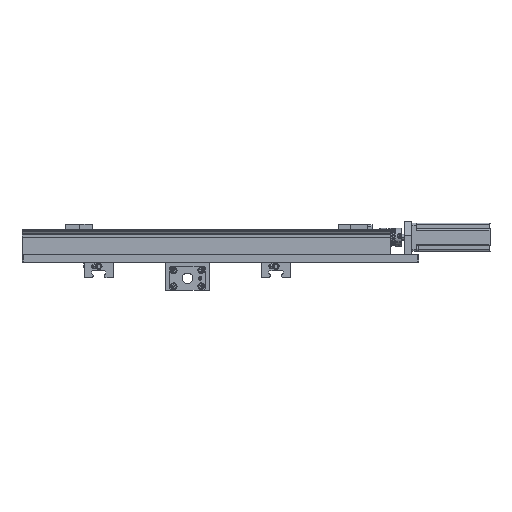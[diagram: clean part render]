
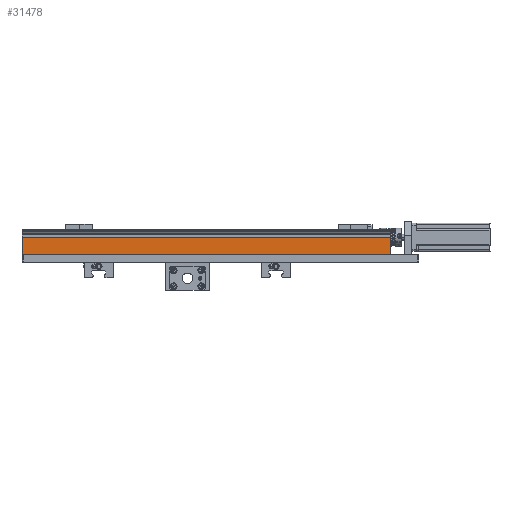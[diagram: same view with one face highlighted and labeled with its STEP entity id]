
A CAD part, left-side view. The second image highlights one B-rep face of the part: STEP entity #31478.
In plain terms, the highlighted planar face has unit normal (-1, 0, 0) as drawn and (0, 0, -1) by its records, which use the part's own axes.
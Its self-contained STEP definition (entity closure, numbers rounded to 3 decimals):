
#822 = ORIENTED_EDGE ( 'NONE', *, *, #30895, .F. ) ;
#5015 = DIRECTION ( 'NONE',  ( 0., 1., 0. ) ) ;
#5969 = ORIENTED_EDGE ( 'NONE', *, *, #22101, .F. ) ;
#7075 = ORIENTED_EDGE ( 'NONE', *, *, #16439, .F. ) ;
#8843 = CARTESIAN_POINT ( 'NONE',  ( 520., 0., 0. ) ) ;
#12026 = VERTEX_POINT ( 'NONE', #35154 ) ;
#15799 = CARTESIAN_POINT ( 'NONE',  ( 0., 0., 0. ) ) ;
#16263 = VERTEX_POINT ( 'NONE', #34339 ) ;
#16439 = EDGE_CURVE ( 'NONE', #16263, #12026, #29105, .T. ) ;
#16686 = AXIS2_PLACEMENT_3D ( 'NONE', #44751, #34719, #41247 ) ;
#16752 = DIRECTION ( 'NONE',  ( -1., 0., 0. ) ) ;
#16932 = VECTOR ( 'NONE', #22464, 1000. ) ;
#18520 = LINE ( 'NONE', #15799, #16932 ) ;
#19619 = ORIENTED_EDGE ( 'NONE', *, *, #34677, .F. ) ;
#19928 = VECTOR ( 'NONE', #16752, 1000. ) ;
#21172 = CARTESIAN_POINT ( 'NONE',  ( 0., 24., 0. ) ) ;
#22101 = EDGE_CURVE ( 'NONE', #26940, #28507, #18520, .T. ) ;
#22464 = DIRECTION ( 'NONE',  ( 0., -1., 0. ) ) ;
#23680 = EDGE_LOOP ( 'NONE', ( #5969, #822, #7075, #19619 ) ) ;
#25832 = VECTOR ( 'NONE', #5015, 1000. ) ;
#25838 = LINE ( 'NONE', #27660, #19928 ) ;
#26940 = VERTEX_POINT ( 'NONE', #21172 ) ;
#27660 = CARTESIAN_POINT ( 'NONE',  ( 0., 24., 0. ) ) ;
#28507 = VERTEX_POINT ( 'NONE', #34334 ) ;
#29105 = LINE ( 'NONE', #8843, #25832 ) ;
#30310 = LINE ( 'NONE', #33149, #36272 ) ;
#30895 = EDGE_CURVE ( 'NONE', #12026, #26940, #25838, .T. ) ;
#31478 = ADVANCED_FACE ( 'NONE', ( #40441 ), #33505, .T. ) ;
#33149 = CARTESIAN_POINT ( 'NONE',  ( 0., 0., 0. ) ) ;
#33505 = PLANE ( 'NONE',  #16686 ) ;
#34334 = CARTESIAN_POINT ( 'NONE',  ( 0., 0., 0. ) ) ;
#34339 = CARTESIAN_POINT ( 'NONE',  ( 520., 0., 0. ) ) ;
#34677 = EDGE_CURVE ( 'NONE', #28507, #16263, #30310, .T. ) ;
#34719 = DIRECTION ( 'NONE',  ( 0., 0., -1. ) ) ;
#35154 = CARTESIAN_POINT ( 'NONE',  ( 520., 24., 0. ) ) ;
#36272 = VECTOR ( 'NONE', #37130, 1000. ) ;
#37130 = DIRECTION ( 'NONE',  ( 1., 0., 0. ) ) ;
#40441 = FACE_OUTER_BOUND ( 'NONE', #23680, .T. ) ;
#41247 = DIRECTION ( 'NONE',  ( -1., 0., 0. ) ) ;
#44751 = CARTESIAN_POINT ( 'NONE',  ( 0., 0., 0. ) ) ;
